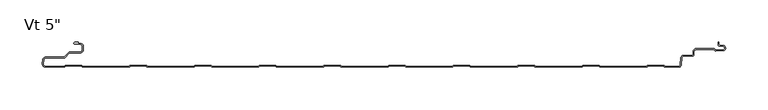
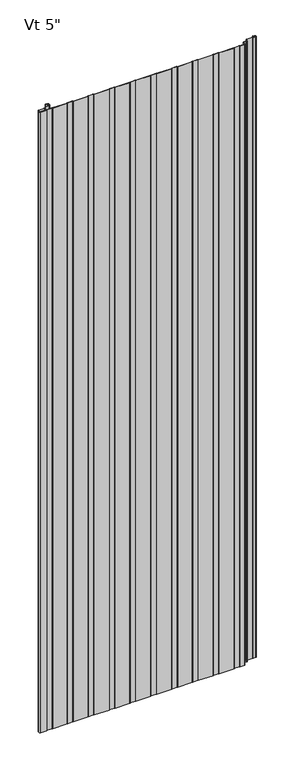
"""IFC4 building model written with IfcOpenShell, lengths in millimetres: plate geometry."""

from ifc_helpers import new_model, si_unit, point, frame_2d, origin, origin_with_axes, place, context, project, spatial, polyline, circle_curve, trimmed, segment, composite_curve, outline, extrude, source, transform, mapped, element, save


def plate_e126f2b7(model_context):
    return source(origin(), model_context, "Body", "SweptSolid", [
        extrude(outline(composite_curve([segment(polyline([(-391.6415934, -126.9997351), (-413.4521176, -126.9997351)]), True, "CONTINUOUS"), segment(trimmed(circle_curve(frame_2d((-413.4521176, -123.4294958)), 3.5702393), [point((-413.4521176, -126.9997351))], [point((-417.008762, -123.1182254))], False, "CARTESIAN"), True, "CONTINUOUS"), segment(polyline([(-417.008762, -123.1182254), (-416.5690675, -118.0941788)]), True, "CONTINUOUS"), segment(trimmed(circle_curve(frame_2d((-412.9198392, -118.7049799)), 3.6999926), [point((-416.5690675, -118.0941788))], [point((-412.9198392, -115.0049873))], False, "CARTESIAN"), True, "CONTINUOUS"), segment(polyline([(-412.9198392, -115.0049873), (-391.7773997, -115.0049873)]), True, "CONTINUOUS"), segment(trimmed(circle_curve(frame_2d((-391.7773997, -113.7049899)), 1.2999974), [point((-391.7773997, -115.0049873))], [point((-390.8581627, -114.6242269))], True, "CARTESIAN"), True, "CONTINUOUS"), segment(polyline([(-390.8581627, -114.6242269), (-386.0297453, -109.7958094)]), True, "CONTINUOUS"), segment(trimmed(circle_curve(frame_2d((-384.1205608, -111.7049939)), 2.6999946), [point((-386.0297453, -109.7958094))], [point((-384.1205608, -109.0049993))], False, "CARTESIAN"), True, "CONTINUOUS"), segment(polyline([(-384.1205608, -109.0049993), (-372.3096717, -109.0049993)]), True, "CONTINUOUS"), segment(trimmed(circle_curve(frame_2d((-372.3096717, -106.655004)), 2.3499953), [point((-372.3096717, -109.0049993))], [point((-369.9596764, -106.655004))], True, "CARTESIAN"), True, "CONTINUOUS"), segment(polyline([(-369.9596764, -106.655004), (-369.9596764, -102.2550128)]), True, "CONTINUOUS"), segment(trimmed(circle_curve(frame_2d((-372.3096717, -102.2550128)), 2.3499953), [point((-369.9596764, -102.2550128))], [point((-372.3096717, -99.9050175))], True, "CARTESIAN"), True, "CONTINUOUS"), segment(polyline([(-372.3096717, -99.9050175), (-378.8289779, -99.9050175)]), True, "CONTINUOUS"), segment(trimmed(circle_curve(frame_2d((-378.7686908, -98.7065352)), 1.1999976), [point((-378.8289779, -99.9050175))], [point((-379.9683001, -98.6760133))], False, "CARTESIAN"), True, "CONTINUOUS"), segment(trimmed(circle_curve(frame_2d((-378.7686908, -98.7065352)), 1.1999976), [point((-379.9683001, -98.6760133))], [point((-378.7671761, -97.5065386))], False, "CARTESIAN"), True, "CONTINUOUS"), segment(polyline([(-378.7671761, -97.5065386), (-375.0087827, -97.5065386), (-375.0087827, -98.9050175), (-372.3096717, -98.9050175)]), True, "CONTINUOUS"), segment(trimmed(circle_curve(frame_2d((-372.3096717, -102.2550128)), 3.3499953), [point((-372.3096717, -98.9050175))], [point((-368.9596764, -102.2550128))], False, "CARTESIAN"), True, "CONTINUOUS"), segment(polyline([(-368.9596764, -102.2550128), (-368.9596764, -106.655004)]), True, "CONTINUOUS"), segment(trimmed(circle_curve(frame_2d((-372.3096717, -106.655004)), 3.3499953), [point((-368.9596764, -106.655004))], [point((-372.3096717, -110.0049993))], False, "CARTESIAN"), True, "CONTINUOUS"), segment(polyline([(-372.3096717, -110.0049993), (-384.1205608, -110.0049993)]), True, "CONTINUOUS"), segment(trimmed(circle_curve(frame_2d((-384.1205608, -111.7049939)), 1.6999946), [point((-384.1205608, -110.0049993))], [point((-385.3226385, -110.5029162))], True, "CARTESIAN"), True, "CONTINUOUS"), segment(polyline([(-385.3226385, -110.5029162), (-390.8247096, -116.0049873), (-412.9198392, -116.0049873)]), True, "CONTINUOUS"), segment(trimmed(circle_curve(frame_2d((-412.9198392, -118.7049799)), 2.6999926), [point((-412.9198392, -116.0049873))], [point((-415.5765709, -118.2235893))], True, "CARTESIAN"), True, "CONTINUOUS"), segment(polyline([(-415.5765709, -118.2235893), (-416.0125699, -123.2054102)]), True, "CONTINUOUS"), segment(trimmed(circle_curve(frame_2d((-413.4521176, -123.4294958)), 2.5702393), [point((-416.0125699, -123.2054102))], [point((-413.4521176, -125.9997351))], True, "CARTESIAN"), True, "CONTINUOUS"), segment(polyline([(-413.4521176, -125.9997351), (-391.4790962, -125.9997351), (-390.2791277, -124.7997666), (-370.5597151, -124.7997666), (-369.3594844, -125.9999973), (-315.2793527, -125.9999973), (-314.079122, -124.7997666), (-294.3597095, -124.7997666), (-293.1594787, -125.9999973), (-239.079347, -125.9999973), (-237.8791163, -124.7997666), (-218.1597038, -124.7997666), (-216.9594731, -125.9999973), (-162.8793413, -125.9999973), (-161.6791106, -124.7997666), (-141.9596981, -124.7997666), (-140.7594674, -125.9999973), (-86.6793356, -125.9999973), (-85.4791049, -124.7997666), (-65.7596924, -124.7997666), (-64.5594617, -125.9999973), (-10.4793299, -125.9999973), (-9.2790992, -124.7997666), (10.4403133, -124.7997666), (11.640544, -125.9999973), (65.7206758, -125.9999973), (66.9209065, -124.7997666), (86.640319, -124.7997666), (87.8405497, -125.9999973), (141.9206815, -125.9999973), (143.1209122, -124.7997666), (162.8403247, -124.7997666), (164.0405554, -125.9999973), (218.1206872, -125.9999973), (219.3209179, -124.7997666), (239.0403304, -124.7997666), (240.2405611, -125.9999973), (294.3206929, -125.9999973), (295.5209236, -124.7997666), (315.2403361, -124.7997666), (316.4396652, -125.9990957), (332.5384359, -125.9990957)]), True, "CONTINUOUS"), segment(trimmed(circle_curve(frame_2d((332.5384359, -124.0491016)), 1.9499941), [point((332.5384359, -125.9990957))], [point((334.4810097, -124.2190548))], True, "CARTESIAN"), True, "CONTINUOUS"), segment(polyline([(334.4810097, -124.2190548), (335.2215397, -115.7547583)]), True, "CONTINUOUS"), segment(trimmed(circle_curve(frame_2d((338.2400056, -116.0188399)), 3.0299959), [point((335.2215397, -115.7547583))], [point((338.3657441, -112.991454))], False, "CARTESIAN"), True, "CONTINUOUS"), segment(polyline([(338.3657441, -112.991454), (348.4595941, -112.991454)]), True, "CONTINUOUS"), segment(trimmed(circle_curve(frame_2d((348.4595941, -112.0423006)), 0.9491534), [point((348.4595941, -112.991454))], [point((349.4087475, -112.0423006))], True, "CARTESIAN"), True, "CONTINUOUS"), segment(polyline([(349.4087475, -112.0423006), (349.4087475, -108.9009009)]), True, "CONTINUOUS"), segment(trimmed(circle_curve(frame_2d((353.4087415, -108.9009009)), 3.999994), [point((349.4087475, -108.9009009))], [point((353.4087415, -104.9009069))], False, "CARTESIAN"), True, "CONTINUOUS"), segment(polyline([(353.4087415, -104.9009069), (374.5895515, -104.9009069), (375.7334028, -106.8821154), (384.706811, -106.526855)]), True, "CONTINUOUS"), segment(trimmed(circle_curve(frame_2d((384.6236622, -104.4266264)), 2.1018739), [point((384.706811, -106.526855))], [point((384.7037148, -102.3262775))], True, "CARTESIAN"), True, "CONTINUOUS"), segment(polyline([(384.7037148, -102.3262775), (380.6977997, -102.0818625)]), True, "CONTINUOUS"), segment(trimmed(circle_curve(frame_2d((380.8099653, -100.243489)), 1.8417922), [point((380.6977997, -102.0818625))], [point((378.9686884, -100.28705))], False, "CARTESIAN"), True, "CONTINUOUS"), segment(polyline([(378.9686884, -100.28705), (378.9686884, -97.5025034), (379.9686884, -97.5025034), (379.9686884, -100.2729362)]), True, "CONTINUOUS"), segment(trimmed(circle_curve(frame_2d((380.8099653, -100.243489)), 0.8417922), [point((379.9686884, -100.2729362))], [point((380.7587, -101.0837187))], True, "CARTESIAN"), True, "CONTINUOUS"), segment(polyline([(380.7587, -101.0837187), (384.7543204, -101.3275055)]), True, "CONTINUOUS"), segment(trimmed(circle_curve(frame_2d((384.6236622, -104.4266264)), 3.1018739), [point((384.7543204, -101.3275055))], [point((384.7463704, -107.5260723))], False, "CARTESIAN"), True, "CONTINUOUS"), segment(polyline([(384.7463704, -107.5260723), (376.0344401, -107.8709806)]), True, "CONTINUOUS"), segment(trimmed(circle_curve(frame_2d((375.987224, -106.4217524)), 1.4499971), [point((376.0344401, -107.8709806))], [point((374.7314897, -107.146751))], False, "CARTESIAN"), True, "CONTINUOUS"), segment(polyline([(374.7314897, -107.146751), (374.0122013, -105.9009069), (353.4087415, -105.9009069)]), True, "CONTINUOUS"), segment(trimmed(circle_curve(frame_2d((353.4087415, -108.9009009)), 2.999994), [point((353.4087415, -105.9009069))], [point((350.4087475, -108.9009009))], True, "CARTESIAN"), True, "CONTINUOUS"), segment(polyline([(350.4087475, -108.9009009), (350.4087475, -112.0423006)]), True, "CONTINUOUS"), segment(trimmed(circle_curve(frame_2d((348.4595941, -112.0423006)), 1.9491534), [point((350.4087475, -112.0423006))], [point((348.4595941, -113.991454))], False, "CARTESIAN"), True, "CONTINUOUS"), segment(polyline([(348.4595941, -113.991454), (338.3429135, -113.991454)]), True, "CONTINUOUS"), segment(trimmed(circle_curve(frame_2d((338.2400056, -116.0188399)), 2.0299959), [point((338.3429135, -113.991454))], [point((336.2177344, -115.8419141))], True, "CARTESIAN"), True, "CONTINUOUS"), segment(polyline([(336.2177344, -115.8419141), (335.4772044, -124.3062105)]), True, "CONTINUOUS"), segment(trimmed(circle_curve(frame_2d((332.5384359, -124.0491016)), 2.9499941), [point((335.4772044, -124.3062105))], [point((332.5384359, -126.9990957))], False, "CARTESIAN"), True, "CONTINUOUS"), segment(polyline([(332.5384359, -126.9990957), (316.6525313, -126.9990957)]), True, "CONTINUOUS"), segment(trimmed(circle_curve(frame_2d((316.6017161, -125.600021)), 1.3999972), [point((316.6525313, -126.9990957))], [point((315.5576653, -126.5327322))], False, "CARTESIAN"), True, "CONTINUOUS"), segment(polyline([(315.5576653, -126.5327322), (314.8246997, -125.7997666), (295.9340305, -125.7997666), (295.2010858, -126.5327112)]), True, "CONTINUOUS"), segment(trimmed(circle_curve(frame_2d((294.157035, -125.6000001)), 1.3999972), [point((295.2010858, -126.5327112))], [point((294.157035, -126.9999973))], False, "CARTESIAN"), True, "CONTINUOUS"), segment(polyline([(294.157035, -126.9999973), (240.4095218, -126.9999973)]), True, "CONTINUOUS"), segment(trimmed(circle_curve(frame_2d((240.4018685, -125.600021)), 1.3999972), [point((240.4095218, -126.9999973))], [point((239.3578177, -126.5327322))], False, "CARTESIAN"), True, "CONTINUOUS"), segment(polyline([(239.3578177, -126.5327322), (238.6248521, -125.7997666), (219.7341829, -125.7997666), (219.0012382, -126.5327112)]), True, "CONTINUOUS"), segment(trimmed(circle_curve(frame_2d((217.9571874, -125.6000001)), 1.3999972), [point((219.0012382, -126.5327112))], [point((217.9571874, -126.9999973))], False, "CARTESIAN"), True, "CONTINUOUS"), segment(polyline([(217.9571874, -126.9999973), (164.2096742, -126.9999973)]), True, "CONTINUOUS"), segment(trimmed(circle_curve(frame_2d((164.2020209, -125.600021)), 1.3999972), [point((164.2096742, -126.9999973))], [point((163.1579701, -126.5327322))], False, "CARTESIAN"), True, "CONTINUOUS"), segment(polyline([(163.1579701, -126.5327322), (162.4250045, -125.7997666), (143.5343353, -125.7997666), (142.8013906, -126.5327112)]), True, "CONTINUOUS"), segment(trimmed(circle_curve(frame_2d((141.7573398, -125.6000001)), 1.3999972), [point((142.8013906, -126.5327112))], [point((141.7573398, -126.9999973))], False, "CARTESIAN"), True, "CONTINUOUS"), segment(polyline([(141.7573398, -126.9999973), (88.0098266, -126.9999973)]), True, "CONTINUOUS"), segment(trimmed(circle_curve(frame_2d((88.0021733, -125.600021)), 1.3999972), [point((88.0098266, -126.9999973))], [point((86.9581225, -126.5327322))], False, "CARTESIAN"), True, "CONTINUOUS"), segment(polyline([(86.9581225, -126.5327322), (86.2251569, -125.7997666), (67.3344877, -125.7997666), (66.601543, -126.5327112)]), True, "CONTINUOUS"), segment(trimmed(circle_curve(frame_2d((65.5574922, -125.6000001)), 1.3999972), [point((66.601543, -126.5327112))], [point((65.5574922, -126.9999973))], False, "CARTESIAN"), True, "CONTINUOUS"), segment(polyline([(65.5574922, -126.9999973), (11.809979, -126.9999973)]), True, "CONTINUOUS"), segment(trimmed(circle_curve(frame_2d((11.8023257, -125.600021)), 1.3999972), [point((11.809979, -126.9999973))], [point((10.7582749, -126.5327322))], False, "CARTESIAN"), True, "CONTINUOUS"), segment(polyline([(10.7582749, -126.5327322), (10.0253093, -125.7997666), (-8.8653599, -125.7997666), (-9.5983046, -126.5327112)]), True, "CONTINUOUS"), segment(trimmed(circle_curve(frame_2d((-10.6423554, -125.6000001)), 1.3999972), [point((-9.5983046, -126.5327112))], [point((-10.6423554, -126.9999973))], False, "CARTESIAN"), True, "CONTINUOUS"), segment(polyline([(-10.6423554, -126.9999973), (-64.3898686, -126.9999973)]), True, "CONTINUOUS"), segment(trimmed(circle_curve(frame_2d((-64.3975219, -125.600021)), 1.3999972), [point((-64.3898686, -126.9999973))], [point((-65.4415727, -126.5327322))], False, "CARTESIAN"), True, "CONTINUOUS"), segment(polyline([(-65.4415727, -126.5327322), (-66.1745383, -125.7997666), (-85.0652075, -125.7997666), (-85.7981522, -126.5327112)]), True, "CONTINUOUS"), segment(trimmed(circle_curve(frame_2d((-86.842203, -125.6000001)), 1.3999972), [point((-85.7981522, -126.5327112))], [point((-86.842203, -126.9999973))], False, "CARTESIAN"), True, "CONTINUOUS"), segment(polyline([(-86.842203, -126.9999973), (-140.5897162, -126.9999973)]), True, "CONTINUOUS"), segment(trimmed(circle_curve(frame_2d((-140.5973695, -125.600021)), 1.3999972), [point((-140.5897162, -126.9999973))], [point((-141.6414203, -126.5327322))], False, "CARTESIAN"), True, "CONTINUOUS"), segment(polyline([(-141.6414203, -126.5327322), (-142.3743859, -125.7997666), (-161.2650551, -125.7997666), (-161.9979998, -126.5327112)]), True, "CONTINUOUS"), segment(trimmed(circle_curve(frame_2d((-163.0420506, -125.6000001)), 1.3999972), [point((-161.9979998, -126.5327112))], [point((-163.0420506, -126.9999973))], False, "CARTESIAN"), True, "CONTINUOUS"), segment(polyline([(-163.0420506, -126.9999973), (-216.7895638, -126.9999973)]), True, "CONTINUOUS"), segment(trimmed(circle_curve(frame_2d((-216.7972171, -125.600021)), 1.3999972), [point((-216.7895638, -126.9999973))], [point((-217.8412679, -126.5327322))], False, "CARTESIAN"), True, "CONTINUOUS"), segment(polyline([(-217.8412679, -126.5327322), (-218.5742335, -125.7997666), (-237.4649027, -125.7997666), (-238.1978474, -126.5327112)]), True, "CONTINUOUS"), segment(trimmed(circle_curve(frame_2d((-239.2418982, -125.6000001)), 1.3999972), [point((-238.1978474, -126.5327112))], [point((-239.2418982, -126.9999973))], False, "CARTESIAN"), True, "CONTINUOUS"), segment(polyline([(-239.2418982, -126.9999973), (-292.9894114, -126.9999973)]), True, "CONTINUOUS"), segment(trimmed(circle_curve(frame_2d((-292.9970647, -125.600021)), 1.3999972), [point((-292.9894114, -126.9999973))], [point((-294.0411155, -126.5327322))], False, "CARTESIAN"), True, "CONTINUOUS"), segment(polyline([(-294.0411155, -126.5327322), (-294.7740811, -125.7997666), (-313.6647503, -125.7997666), (-314.397695, -126.5327112)]), True, "CONTINUOUS"), segment(trimmed(circle_curve(frame_2d((-315.4417458, -125.6000001)), 1.3999972), [point((-314.397695, -126.5327112))], [point((-315.4417458, -126.9999973))], False, "CARTESIAN"), True, "CONTINUOUS"), segment(polyline([(-315.4417458, -126.9999973), (-369.189259, -126.9999973)]), True, "CONTINUOUS"), segment(trimmed(circle_curve(frame_2d((-369.1969123, -125.600021)), 1.3999972), [point((-369.189259, -126.9999973))], [point((-370.2409631, -126.5327322))], False, "CARTESIAN"), True, "CONTINUOUS"), segment(polyline([(-370.2409631, -126.5327322), (-370.9739287, -125.7997666), (-389.8649141, -125.7997666), (-390.5976403, -126.5324928)]), True, "CONTINUOUS"), segment(trimmed(circle_curve(frame_2d((-391.6415934, -125.599869)), 1.3998661), [point((-390.5976403, -126.5324928))], [point((-391.6415934, -126.9997351))], False, "CARTESIAN"), True, "CONTINUOUS")], self_intersect=False)), origin_with_axes(), (0.0, 0.0, 1.0), 2400.0),
    ])


if __name__ == "__main__":
    model = new_model("IFC4")
    model_context = context("Model", 3, world=origin())
    ifc_project = project(units=[si_unit("LENGTHUNIT", "METRE", prefix="MILLI")], contexts=[model_context])
    site = spatial("IfcSite", under=ifc_project)
    building = spatial("IfcBuilding", under=site)
    placement = place(None, origin())
    plate_shape = plate_e126f2b7(model_context)
    element("IfcPlate", 1, ObjectType="KIP-30-Karrier-KP-R19-CP-Vt-SL_SL : Vt 5\"", at=placement, inside=building, context=model_context, shape_type="MappedRepresentation", body=[
        mapped(plate_shape, transform((0.0, 0.0, 0.0), x_axis=(1.0, 0.0, 0.0), y_axis=(0.0, 1.0, 0.0), z_axis=(0.0, 0.0, 1.0))),
    ])
    save(model, "model.ifc")
